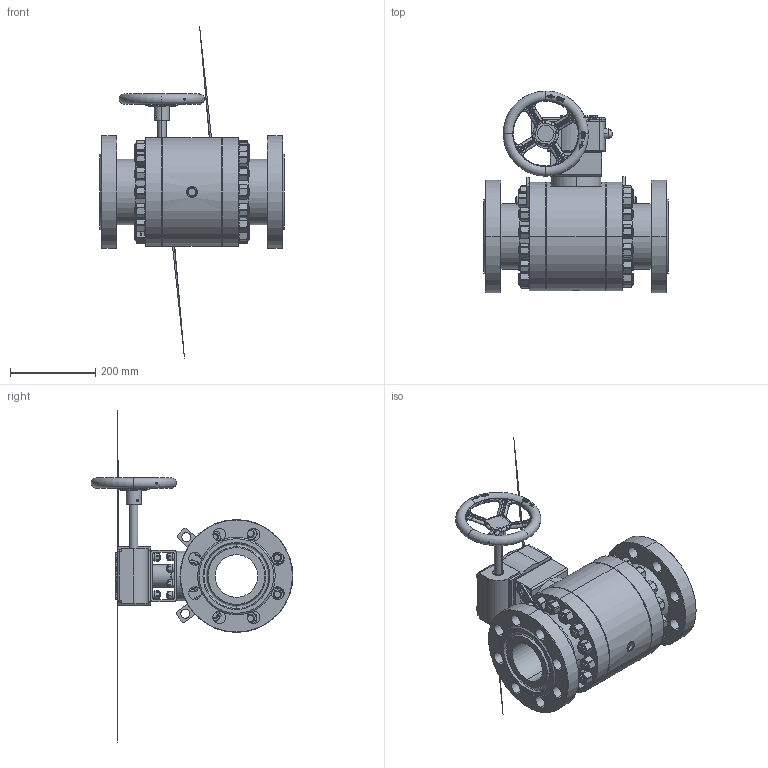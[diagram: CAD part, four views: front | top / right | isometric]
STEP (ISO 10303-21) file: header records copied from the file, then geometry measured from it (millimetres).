
FILE_DESCRIPTION(('STEP AP203'), '1');
FILE_NAME('ZARDP 100.080.27.P.stp', '2013-12-09T06:07:57', ('UNSPECIFIED UNSPECIFIED'), ('UNSPECIFIED'), 'ASCON STEP Converter 1.3', 'Kompas 3D', '');
FILE_SCHEMA(('CONFIG_CONTROL_DESIGN','SUPPORT_RESOURCE_SCHEMA'));
Length unit declared in the file: millimetre
Products named in the file (1): 28
Bounding box: 432 x 473.49 x 779.07 mm (x, y, z)
Surface area: 1589084.2 mm2 (no closed solid volume)
Topology: 0 solids, 94 shells, 2876 faces, 7452 edges, 4704 vertices
Faces by surface type: cylinder 1053, plane 839, cone 560, bspline 296, torus 118, sphere 10
Entity records: 187747 total; most frequent: CARTESIAN_POINT 120897, ORIENTED_EDGE 14247, DIRECTION 12806, EDGE_CURVE 7271, AXIS2_PLACEMENT_3D 5226, VERTEX_POINT 4672, EDGE_LOOP 3275, ADVANCED_FACE 2872
